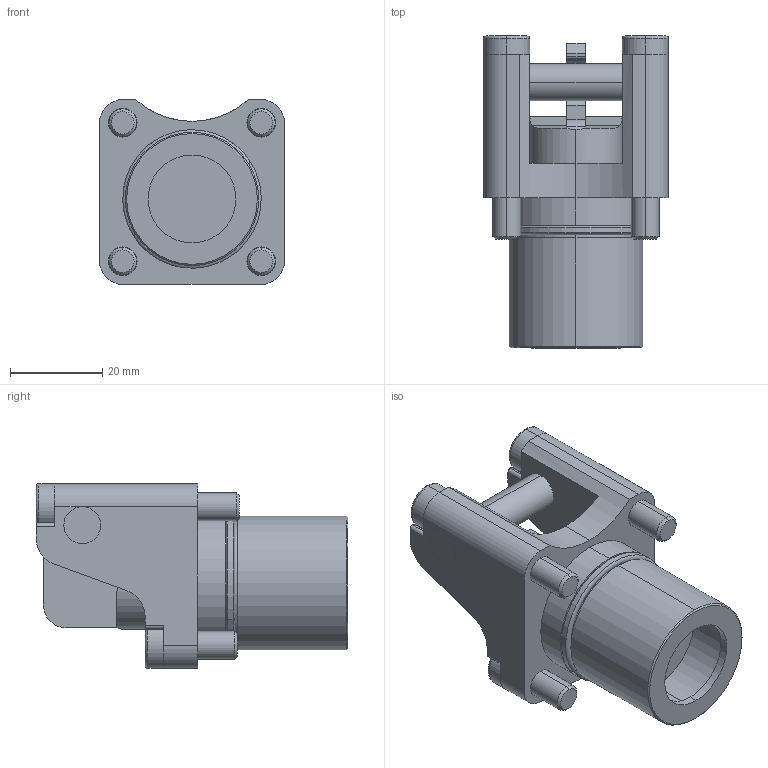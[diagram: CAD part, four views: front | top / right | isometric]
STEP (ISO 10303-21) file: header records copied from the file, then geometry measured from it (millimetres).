
FILE_DESCRIPTION (( 'STEP AP203' ), '1' );
FILE_NAME ('101694_Drehhebelspanner.STEP', '2013-04-18T08:28:55', ( '' ), ( '' ), 'SwSTEP 2.0', 'SolidWorks 2010', '' );
FILE_SCHEMA (( 'CONFIG_CONTROL_DESIGN' ));
Length unit declared in the file: millimetre
Products named in the file (7): 101694_Kolben; 101694_Lagerbolzen_Default; 101694_O-Ring_Default; 101694_Zylinderschraube_2_Default; 101694_Zylinderschraube_1_Default; 101694_Drehhebelspanner; 101694_Gehäuse_Default
Assembly tree (8 placements, depth 2):
  101694_Drehhebelspanner
    101694_Zylinderschraube_1_Default  x2
    101694_Kolben
    101694_Gehäuse_Default
    101694_Lagerbolzen_Default
    101694_Zylinderschraube_2_Default  x2
    101694_O-Ring_Default
Bounding box: 40 x 67.5 x 40 mm (x, y, z)
Volume: 45220.3 mm3; surface area: 22858.5 mm2
Topology: 8 solids, 8 shells, 236 faces, 577 edges, 354 vertices
Faces by surface type: plane 104, cylinder 90, torus 22, cone 20
Entity records: 6674 total; most frequent: CARTESIAN_POINT 1346, DIRECTION 1027, ORIENTED_EDGE 914, EDGE_CURVE 457, AXIS2_PLACEMENT_3D 397, VERTEX_POINT 288, LINE 233, VECTOR 233
